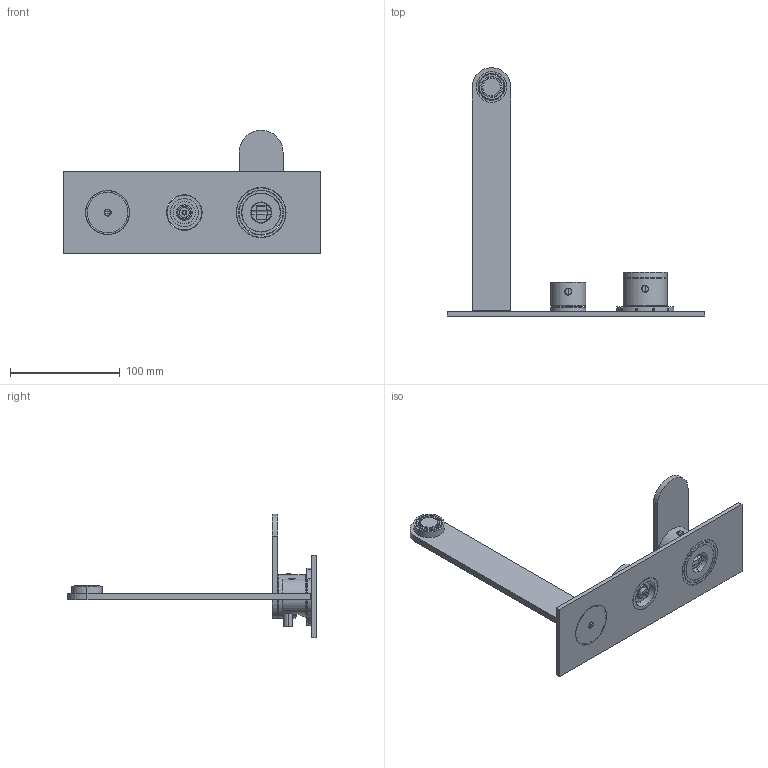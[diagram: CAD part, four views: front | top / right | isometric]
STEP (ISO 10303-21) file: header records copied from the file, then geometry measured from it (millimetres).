
FILE_DESCRIPTION((''),'2;1');
FILE_NAME('79528V221_SW0001','2026-10-05T11:30:17',('carloff'),(''),'CREO PARAMETRIC BY PTC INC, 2025443','CREO PARAMETRIC BY PTC INC, 2025443','');
FILE_SCHEMA(('CONFIG_CONTROL_DESIGN'));
Length unit declared in the file: millimetre
Products named in the file (1): 79528V221_SW0001
Bounding box: 235 x 226.5 x 112.5 mm (x, y, z)
Volume: 170165.6 mm3; surface area: 106408.4 mm2
Topology: 6 solids, 6 shells, 793 faces, 2137 edges, 1395 vertices
Faces by surface type: cylinder 311, plane 302, cone 74, torus 70, bspline 32, sphere 4
Entity records: 40785 total; most frequent: CARTESIAN_POINT 20844, ORIENTED_EDGE 4258, DIRECTION 4082, EDGE_CURVE 2129, AXIS2_PLACEMENT_3D 1510, VERTEX_POINT 1395, VECTOR 1062, LINE 1062
